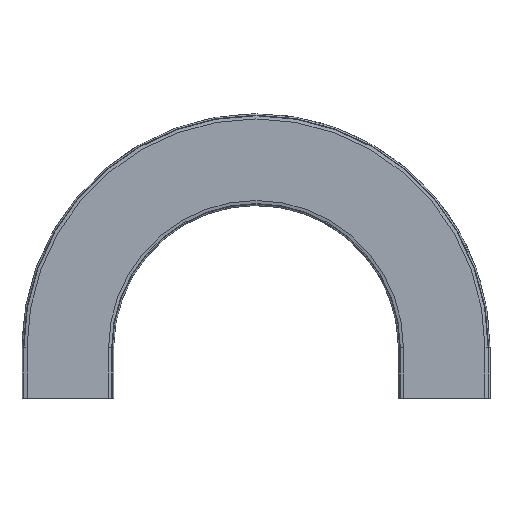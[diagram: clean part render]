
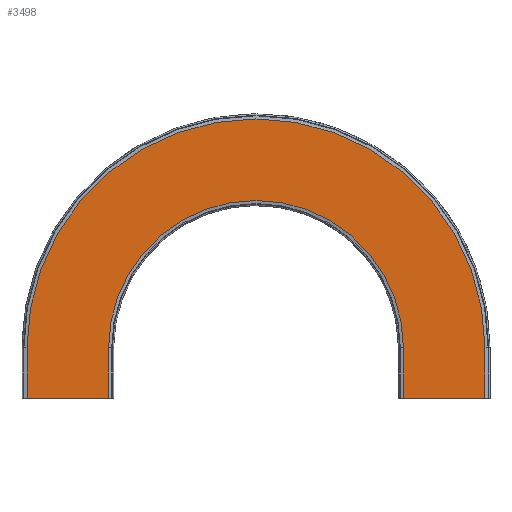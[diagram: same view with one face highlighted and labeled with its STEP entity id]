
A CAD part, front view. The second image highlights one B-rep face of the part: STEP entity #3498.
In plain terms, the highlighted planar face has unit normal (0, -1, 0).
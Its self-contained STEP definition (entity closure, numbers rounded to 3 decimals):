
#163=CIRCLE('',#3712,235.);
#164=CIRCLE('',#3714,365.);
#326=FACE_OUTER_BOUND('',#513,.T.);
#513=EDGE_LOOP('',(#2343,#2344,#2345,#2346,#2347,#2348,#2349,#2350));
#715=LINE('',#4874,#1077);
#719=LINE('',#4881,#1081);
#730=LINE('',#4914,#1092);
#731=LINE('',#4916,#1093);
#732=LINE('',#4917,#1094);
#733=LINE('',#4918,#1095);
#1077=VECTOR('',#3976,10.);
#1081=VECTOR('',#3982,10.);
#1092=VECTOR('',#4013,10.);
#1093=VECTOR('',#4014,10.);
#1094=VECTOR('',#4015,10.);
#1095=VECTOR('',#4016,10.);
#1439=VERTEX_POINT('',#4871);
#1440=VERTEX_POINT('',#4873);
#1442=VERTEX_POINT('',#4879);
#1451=VERTEX_POINT('',#4905);
#1452=VERTEX_POINT('',#4907);
#1453=VERTEX_POINT('',#4911);
#1454=VERTEX_POINT('',#4913);
#1455=VERTEX_POINT('',#4915);
#1787=EDGE_CURVE('',#1440,#1439,#715,.T.);
#1791=EDGE_CURVE('',#1442,#1439,#719,.T.);
#1804=EDGE_CURVE('',#1452,#1451,#163,.T.);
#1806=EDGE_CURVE('',#1453,#1442,#164,.T.);
#1807=EDGE_CURVE('',#1454,#1453,#730,.T.);
#1808=EDGE_CURVE('',#1454,#1455,#731,.T.);
#1809=EDGE_CURVE('',#1455,#1452,#732,.T.);
#1810=EDGE_CURVE('',#1451,#1440,#733,.T.);
#2343=ORIENTED_EDGE('',*,*,#1787,.T.);
#2344=ORIENTED_EDGE('',*,*,#1791,.F.);
#2345=ORIENTED_EDGE('',*,*,#1806,.F.);
#2346=ORIENTED_EDGE('',*,*,#1807,.F.);
#2347=ORIENTED_EDGE('',*,*,#1808,.T.);
#2348=ORIENTED_EDGE('',*,*,#1809,.T.);
#2349=ORIENTED_EDGE('',*,*,#1804,.T.);
#2350=ORIENTED_EDGE('',*,*,#1810,.T.);
#3377=PLANE('',#3713);
#3498=ADVANCED_FACE('',(#326),#3377,.T.);
#3712=AXIS2_PLACEMENT_3D('',#4908,#4006,#4007);
#3713=AXIS2_PLACEMENT_3D('',#4910,#4009,#4010);
#3714=AXIS2_PLACEMENT_3D('',#4912,#4011,#4012);
#3976=DIRECTION('',(1.,0.,0.));
#3982=DIRECTION('',(0.,0.,-1.));
#4006=DIRECTION('center_axis',(0.,1.,0.));
#4007=DIRECTION('ref_axis',(-1.,0.,0.));
#4009=DIRECTION('center_axis',(0.,-1.,0.));
#4010=DIRECTION('ref_axis',(0.,0.,1.));
#4011=DIRECTION('center_axis',(0.,1.,0.));
#4012=DIRECTION('ref_axis',(-1.,0.,0.));
#4013=DIRECTION('',(0.,0.,1.));
#4014=DIRECTION('',(1.,0.,0.));
#4015=DIRECTION('',(0.,0.,1.));
#4016=DIRECTION('',(0.,0.,-1.));
#4871=CARTESIAN_POINT('',(704.001,-72.,0.));
#4873=CARTESIAN_POINT('',(574.001,-72.,0.));
#4874=CARTESIAN_POINT('',(608.001,-72.,0.));
#4879=CARTESIAN_POINT('',(704.001,-72.,80.));
#4881=CARTESIAN_POINT('',(704.001,-72.,1102.478));
#4905=CARTESIAN_POINT('',(574.001,-72.,80.));
#4907=CARTESIAN_POINT('',(104.001,-72.,80.));
#4908=CARTESIAN_POINT('Origin',(339.001,-72.,80.));
#4910=CARTESIAN_POINT('Origin',(574.001,-72.,1102.478));
#4911=CARTESIAN_POINT('',(-25.999,-72.,80.));
#4912=CARTESIAN_POINT('Origin',(339.001,-72.,80.));
#4913=CARTESIAN_POINT('',(-25.999,-72.,0.));
#4914=CARTESIAN_POINT('',(-25.999,-72.,0.));
#4915=CARTESIAN_POINT('',(104.001,-72.,0.));
#4916=CARTESIAN_POINT('',(-25.999,-72.,0.));
#4917=CARTESIAN_POINT('',(104.001,-72.,0.));
#4918=CARTESIAN_POINT('',(574.001,-72.,1102.478));
